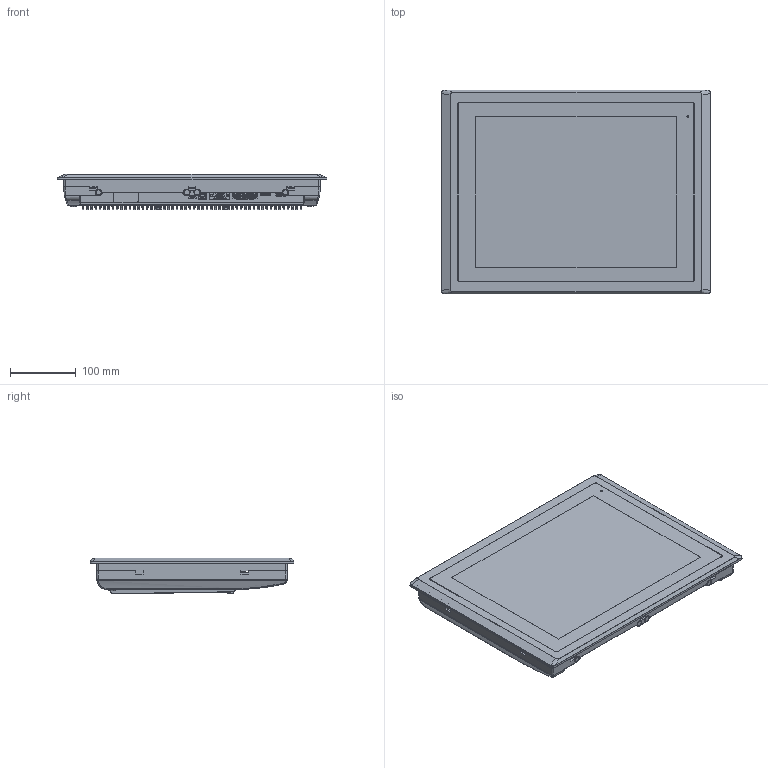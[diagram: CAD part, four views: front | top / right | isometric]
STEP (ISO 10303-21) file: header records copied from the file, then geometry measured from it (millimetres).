
FILE_DESCRIPTION (( 'STEP AP214' ), '1' );
FILE_NAME ('MON6015AP.STEP', '2022-05-06T21:11:28', ( '' ), ( '' ), 'SwSTEP 2.0', 'SolidWorks 2019', '' );
FILE_SCHEMA (( 'AUTOMOTIVE_DESIGN' ));
Length unit declared in the file: inch
Products named in the file (28): ARCDIS-115AP_6802 _STP14.STEP; MON6015AP; ARCDIS-115AP_6802 _STP3.STEP; ARCDIS-115AP_6802 _STP17.STEP; ARCDIS-115AP_6802 _STP6.STEP; ARCDIS-115AP_6802 _STP20.STEP; ARCDIS-115AP_6802 _STP9.STEP; ARCDIS-115AP_6802 _STP23.STEP; ARCDIS-115AP_6802 _STP12.STEP; ARCDIS-115AP_6802 _STP26.STEP; ARCDIS-115AP_6802 _STP1.STEP; ARCDIS-115AP_6802 _STP15.STEP; ARCDIS-115AP_6802 _STP4.STEP; ARCDIS-115AP_6802 _STP18.STEP; ARCDIS-115AP_6802 _STP7.STEP; ARCDIS-115AP_6802 _STP21.STEP; ARCDIS-115AP_6802 _STP10.STEP; ARCDIS-115AP_6802 _STP24.STEP; ARCDIS-115AP_6802 _STP13.STEP; ARCDIS-115AP_6802 _STP.STEP; ARCDIS-115AP_6802 _STP2.STEP; ARCDIS-115AP_6802 _STP16.STEP; ARCDIS-115AP_6802 _STP5.STEP; ARCDIS-115AP_6802 _STP19.STEP; ARCDIS-115AP_6802 _STP8.STEP; ARCDIS-115AP_6802 _STP22.STEP; ARCDIS-115AP_6802 _STP11.STEP; ARCDIS-115AP_6802 _STP25.STEP
Assembly tree (27 placements, depth 3):
  MON6015AP
    ARCDIS-115AP_6802 _STP.STEP
      ARCDIS-115AP_6802 _STP1.STEP
      ARCDIS-115AP_6802 _STP2.STEP
      ARCDIS-115AP_6802 _STP3.STEP
      ARCDIS-115AP_6802 _STP4.STEP
      ARCDIS-115AP_6802 _STP5.STEP
      ARCDIS-115AP_6802 _STP6.STEP
      ARCDIS-115AP_6802 _STP7.STEP
      ARCDIS-115AP_6802 _STP8.STEP
      ARCDIS-115AP_6802 _STP9.STEP
      ARCDIS-115AP_6802 _STP10.STEP
      ARCDIS-115AP_6802 _STP11.STEP
      ARCDIS-115AP_6802 _STP12.STEP
      ARCDIS-115AP_6802 _STP13.STEP
      ARCDIS-115AP_6802 _STP14.STEP
      ARCDIS-115AP_6802 _STP15.STEP
      ARCDIS-115AP_6802 _STP16.STEP
      ARCDIS-115AP_6802 _STP17.STEP
      ARCDIS-115AP_6802 _STP18.STEP
      ARCDIS-115AP_6802 _STP19.STEP
      ARCDIS-115AP_6802 _STP20.STEP
      ARCDIS-115AP_6802 _STP21.STEP
      ARCDIS-115AP_6802 _STP22.STEP
      ARCDIS-115AP_6802 _STP23.STEP
      ARCDIS-115AP_6802 _STP24.STEP
      ARCDIS-115AP_6802 _STP25.STEP
      ARCDIS-115AP_6802 _STP26.STEP
Bounding box: 410 x 310 x 54.67 mm (x, y, z)
Volume: 309094.5 mm3; surface area: 829829.4 mm2
Topology: 20 solids, 26 shells, 8449 faces, 23113 edges, 14701 vertices
Faces by surface type: plane 5164, cylinder 2049, bspline 638, torus 312, cone 181, sphere 105
Entity records: 396990 total; most frequent: CARTESIAN_POINT 226520, ORIENTED_EDGE 45986, EDGE_CURVE 23023, B_SPLINE_CURVE_WITH_KNOTS 22669, DIRECTION 15869, VERTEX_POINT 14727, EDGE_LOOP 8851, FACE_OUTER_BOUND 8498
